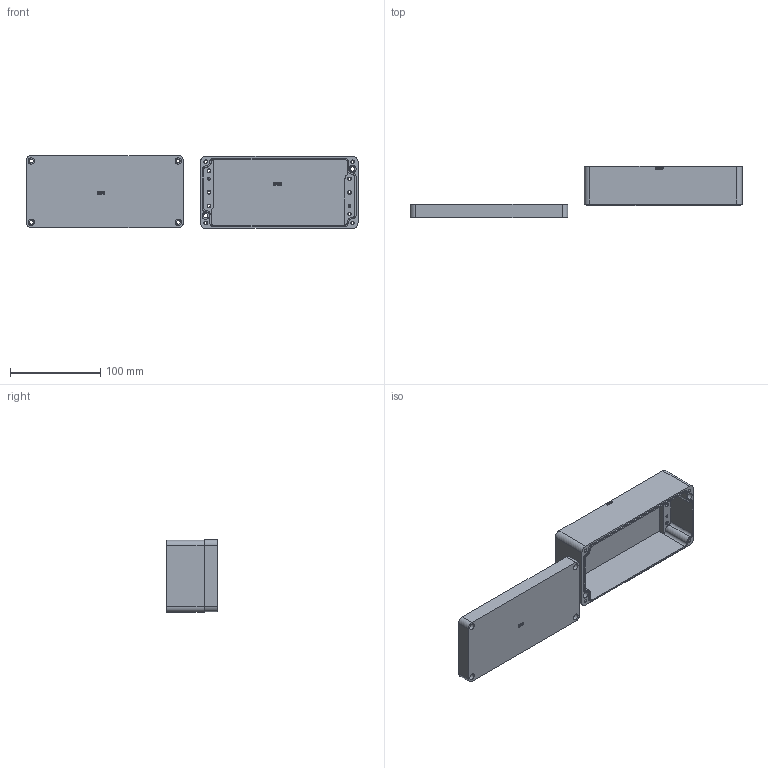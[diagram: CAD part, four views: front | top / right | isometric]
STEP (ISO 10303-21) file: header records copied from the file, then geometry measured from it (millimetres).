
FILE_DESCRIPTION (( 'STEP AP203' ), '1' );
FILE_NAME ('ZX-AL-081705_装配体.STEP', '2022-01-24T07:57:47', ( '微软用户' ), ( '微软中国' ), 'SwSTEP 2.0', 'SolidWorks 2020', '' );
FILE_SCHEMA (( 'CONFIG_CONTROL_DESIGN' ));
Length unit declared in the file: millimetre
Products named in the file (3): ZX-AL-081705_蚾饜极; ZX-AL-081705_狟; ZX-AL-081705_奻
Assembly tree (2 placements, depth 2):
  ZX-AL-081705_蚾饜极
    ZX-AL-081705_狟
    ZX-AL-081705_奻
Bounding box: 368.4 x 57 x 80.79 mm (x, y, z)
Volume: 199279.1 mm3; surface area: 117683.2 mm2
Topology: 2 solids, 2 shells, 564 faces, 1551 edges, 1021 vertices
Faces by surface type: plane 282, cylinder 129, bspline 123, cone 30
Entity records: 23824 total; most frequent: CARTESIAN_POINT 9714, ORIENTED_EDGE 3090, DIRECTION 2475, EDGE_CURVE 1545, VERTEX_POINT 1021, LINE 1015, VECTOR 1015, AXIS2_PLACEMENT_3D 730
